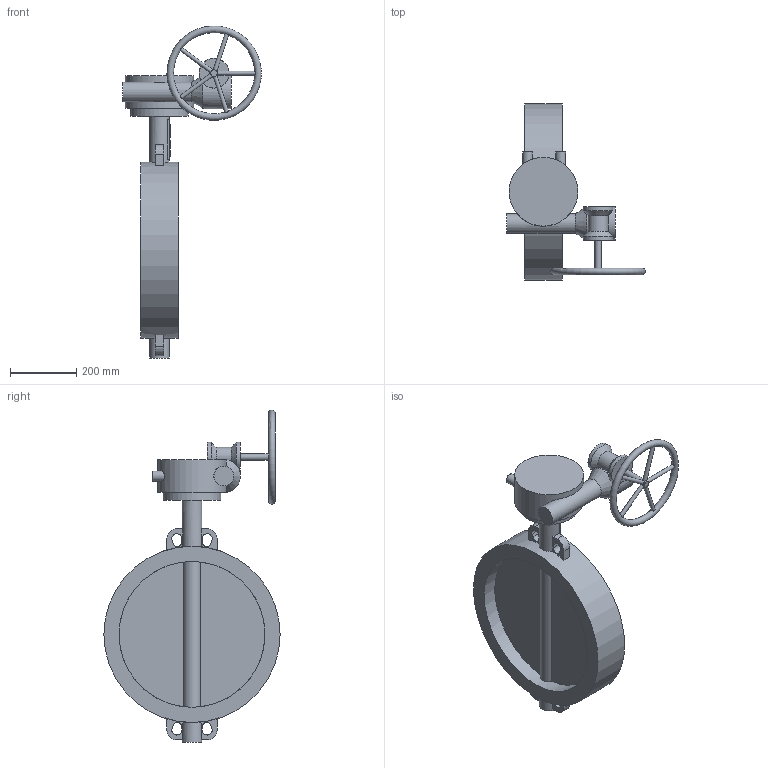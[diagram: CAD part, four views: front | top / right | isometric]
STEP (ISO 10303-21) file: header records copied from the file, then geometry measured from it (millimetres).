
FILE_DESCRIPTION(('STEP AP203'), '1');
FILE_NAME('Çàòâîð 017W.Z(÷óãóí) DN450 PN10_16 ðåäóêòîð', '', ('UNSPECIFIED'), ('UNSPECIFIED'), 'ASCON STEP Converter 1.6', 'ASCON Math Kernel', '');
FILE_SCHEMA(('CONFIG_CONTROL_DESIGN'));
Length unit declared in the file: millimetre
Bounding box: 418.49 x 532 x 1002.42 mm (x, y, z)
Volume: 18668601.6 mm3; surface area: 1148555.8 mm2
Topology: 1 solids, 1 shells, 782 faces, 2240 edges, 1492 vertices
Faces by surface type: cylinder 582, plane 196, cone 3, torus 1
Full cylindrical faces by diameter (mm): 12 x5, 14 x4, 18 x4, 20 x2, 30 x2, 60 x3, 90 x2, 100 x1, 175 x1, 208 x1, 440.5 x2, 532 x1
Entity records: 35422 total; most frequent: CARTESIAN_POINT 7692, DIRECTION 4893, ORIENTED_EDGE 4418, EDGE_CURVE 2209, AXIS2_PLACEMENT_3D 1951, VERTEX_POINT 1491, CIRCLE 1168, LINE 991
